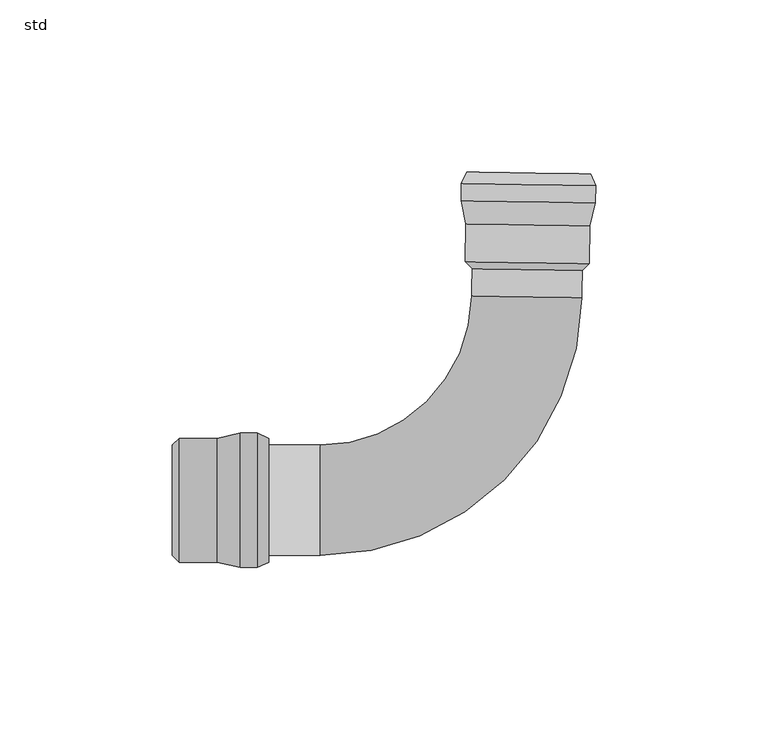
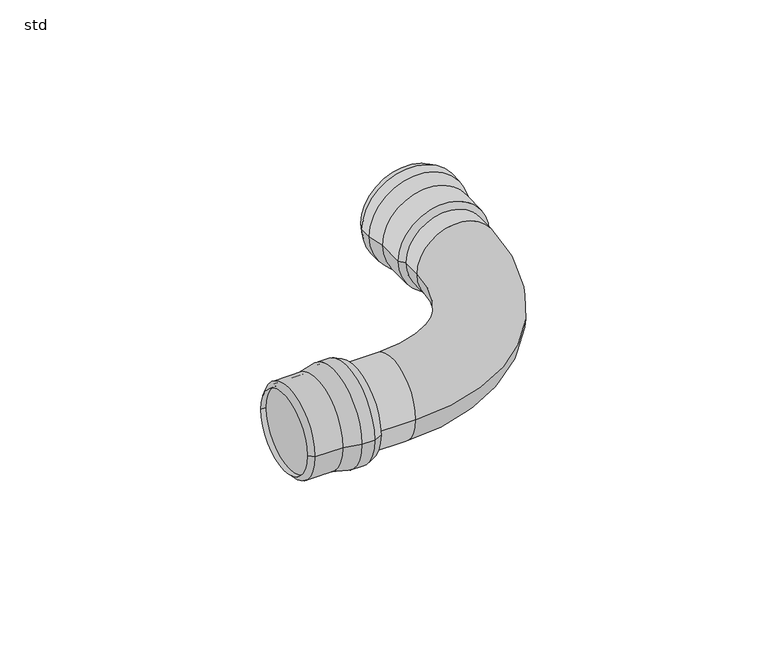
"""IFC4 building model written with IfcOpenShell, lengths in millimetres: pipe fitting geometry, PIF_ST_UN_GM-X pipe bend_ACO : std."""

from ifc_helpers import new_model, si_unit, point, frame, origin, place, context, project, spatial, polyline, circle_curve, ellipse_curve, trimmed, source, transform, mapped, element, save
from ifc_brep_helpers import plane_surface, cylinder_surface, revolved_surface, advanced_brep


def std_7f522812(model_context):
    return source(origin(), model_context, "Body", "AdvancedBrep", [
        advanced_brep(
        [(-82.3, -19.5, 0.0), (-82.3, 19.5, 0.0), (-77.4, 19.5, 0.0), (-77.4, -19.5, 0.0), (-89.0, -18.0, 0.0), (-89.0, 18.0, 0.0), (-74.0, 18.0, 0.0), (-74.0, -18.0, 0.0), (-100.0, -18.0, 0.0), (-100.0, 18.0, 0.0), (-102.0, -16.0, 0.0), (-102.0, 16.0, 0.0), (-100.0, -16.0, 0.0), (-100.0, 16.0, 0.0), (-88.8894283, -17.0, 0.0), (-88.8894283, 17.0, 0.0), (-100.0, 17.0, 0.0), (-100.0, -17.0, 0.0), (-82.1894283, -18.5, 0.0), (-82.1894283, 18.5, 0.0), (-77.6107872, -18.5, 0.0), (-77.6107872, 18.5, 0.0), (-74.4036402, -17.0850822, 0.0), (-74.4036402, 17.0850822, 0.0)],
        [
            (0, 1, circle_curve(frame((-82.3, 0.0, 0.0), z_axis=(1.0, 0.0, 0.0), x_axis=(0.0, 1.0, 0.0)), 19.5)),
            (1, 2),
            (2, 3, circle_curve(frame((-77.4, 0.0, 0.0), z_axis=(-1.0, 0.0, 0.0), x_axis=(0.0, 1.0, 0.0)), 19.5)),
            (3, 0),
            (1, 0, circle_curve(frame((-82.3, 0.0, 0.0), z_axis=(1.0, 0.0, 0.0), x_axis=(0.0, 1.0, 0.0)), 19.5)),
            (3, 2, circle_curve(frame((-77.4, 0.0, 0.0), z_axis=(-1.0, 0.0, 0.0), x_axis=(0.0, 1.0, 0.0)), 19.5)),
            (4, 5, circle_curve(frame((-89.0, 0.0, 0.0), z_axis=(1.0, 0.0, 0.0), x_axis=(0.0, 1.0, 0.0)), 18.0)),
            (5, 1),
            (0, 4),
            (5, 4, circle_curve(frame((-89.0, 0.0, 0.0), z_axis=(1.0, 0.0, 0.0), x_axis=(0.0, 1.0, 0.0)), 18.0)),
            (2, 6),
            (6, 7, circle_curve(frame((-74.0, 0.0, 0.0), z_axis=(-1.0, 0.0, 0.0), x_axis=(0.0, 1.0, 0.0)), 18.0)),
            (7, 3),
            (7, 6, circle_curve(frame((-74.0, 0.0, 0.0), z_axis=(-1.0, 0.0, 0.0), x_axis=(0.0, 1.0, 0.0)), 18.0)),
            (8, 9, circle_curve(frame((-100.0, 0.0, 0.0), z_axis=(1.0, 0.0, 0.0), x_axis=(0.0, 1.0, 0.0)), 18.0)),
            (9, 5),
            (4, 8),
            (9, 8, circle_curve(frame((-100.0, 0.0, 0.0), z_axis=(1.0, 0.0, 0.0), x_axis=(0.0, 1.0, 0.0)), 18.0)),
            (10, 11, circle_curve(frame((-102.0, 0.0, 0.0), z_axis=(1.0, 0.0, 0.0), x_axis=(0.0, 1.0, 0.0)), 16.0)),
            (11, 9),
            (8, 10),
            (11, 10, circle_curve(frame((-102.0, 0.0, 0.0), z_axis=(1.0, 0.0, 0.0), x_axis=(0.0, 1.0, 0.0)), 16.0)),
            (12, 13, circle_curve(frame((-100.0, 0.0, 0.0), z_axis=(1.0, 0.0, 0.0), x_axis=(0.0, 1.0, 0.0)), 16.0)),
            (13, 11),
            (10, 12),
            (13, 12, circle_curve(frame((-100.0, 0.0, 0.0), z_axis=(1.0, 0.0, 0.0), x_axis=(0.0, 1.0, 0.0)), 16.0)),
            (14, 15, circle_curve(frame((-88.8894283, 0.0, 0.0), z_axis=(1.0, 0.0, 0.0), x_axis=(0.0, 1.0, 0.0)), 17.0)),
            (15, 16),
            (16, 17, circle_curve(frame((-100.0, 0.0, 0.0), z_axis=(-1.0, 0.0, 0.0), x_axis=(0.0, 1.0, 0.0)), 17.0)),
            (17, 14),
            (15, 14, circle_curve(frame((-88.8894283, 0.0, 0.0), z_axis=(1.0, 0.0, 0.0), x_axis=(0.0, 1.0, 0.0)), 17.0)),
            (17, 16, circle_curve(frame((-100.0, 0.0, 0.0), z_axis=(-1.0, 0.0, 0.0), x_axis=(0.0, 1.0, 0.0)), 17.0)),
            (18, 19, circle_curve(frame((-82.1894283, 0.0, 0.0), z_axis=(1.0, 0.0, 0.0), x_axis=(0.0, 1.0, 0.0)), 18.5)),
            (19, 15),
            (14, 18),
            (19, 18, circle_curve(frame((-82.1894283, 0.0, 0.0), z_axis=(1.0, 0.0, 0.0), x_axis=(0.0, 1.0, 0.0)), 18.5)),
            (20, 21, circle_curve(frame((-77.6107872, 0.0, 0.0), z_axis=(1.0, 0.0, 0.0), x_axis=(0.0, 1.0, 0.0)), 18.5)),
            (21, 19),
            (18, 20),
            (21, 20, circle_curve(frame((-77.6107872, 0.0, 0.0), z_axis=(1.0, 0.0, 0.0), x_axis=(0.0, 1.0, 0.0)), 18.5)),
            (22, 23, circle_curve(frame((-74.4036402, 0.0, 0.0), z_axis=(1.0, 0.0, 0.0), x_axis=(0.0, 1.0, 0.0)), 17.0850822)),
            (23, 21),
            (20, 22),
            (23, 22, circle_curve(frame((-74.4036402, 0.0, 0.0), z_axis=(1.0, 0.0, 0.0), x_axis=(0.0, 1.0, 0.0)), 17.0850822)),
            (6, 23),
            (22, 7),
            (16, 13),
            (12, 17),
        ],
        [
            cylinder_surface(frame((-77.3555883, 0.0, 0.0), z_axis=(-1.0, 0.0, 0.0), x_axis=(0.0, 1.0, 0.0)), 19.5),
            revolved_surface(polyline([(-82.3, 19.5, 0.0), (-89.0, 18.0, 0.0)]), (-77.3555883, 0.0, 0.0), (-1.0, 0.0, 0.0)),
            revolved_surface(polyline([(-74.0, 18.0, 0.0), (-77.4, 19.5, 0.0)]), (-77.3555883, 0.0, 0.0), (-1.0, 0.0, 0.0)),
            cylinder_surface(frame((-77.3555883, 0.0, 0.0), z_axis=(-1.0, 0.0, 0.0), x_axis=(0.0, 1.0, 0.0)), 18.0),
            revolved_surface(polyline([(-100.0, 18.0, 0.0), (-102.0, 16.0, 0.0)]), (-77.3555883, 0.0, 0.0), (-1.0, 0.0, 0.0)),
            revolved_surface(polyline([(-102.0, 16.0, 0.0), (-100.0, 16.0, 0.0)]), (-77.3555883, 0.0, 0.0), (-1.0, 0.0, 0.0)),
            revolved_surface(polyline([(-100.0, 17.0, 0.0), (-88.8894283, 17.0, 0.0)]), (-77.3555883, 0.0, 0.0), (-1.0, 0.0, 0.0)),
            revolved_surface(polyline([(-88.8894283, 17.0, 0.0), (-82.1894283, 18.5, 0.0)]), (-77.3555883, 0.0, 0.0), (-1.0, 0.0, 0.0)),
            revolved_surface(polyline([(-82.1894283, 18.5, 0.0), (-77.6107872, 18.5, 0.0)]), (-77.3555883, 0.0, 0.0), (-1.0, 0.0, 0.0)),
            revolved_surface(polyline([(-77.6107872, 18.5, 0.0), (-74.4036402, 17.0850822, 0.0)]), (-77.3555883, 0.0, 0.0), (-1.0, 0.0, 0.0)),
            revolved_surface(polyline([(-74.4036402, 17.0850822, 0.0), (-74.0, 18.0, 0.0)]), (-77.3555883, 0.0, 0.0), (-1.0, 0.0, 0.0)),
            plane_surface(frame((-100.0, 0.0, 0.0), z_axis=(1.0, 0.0, 0.0), x_axis=(0.0, 1.0, 0.0))),
        ],
        [
            (0, [[1, 2, 3, 4]]),
            (0, [[5, -4, 6, -2]]),
            (1, [[7, 8, -1, 9]]),
            (1, [[10, -9, -5, -8]]),
            (2, [[-3, 11, 12, 13]]),
            (2, [[-6, -13, 14, -11]]),
            (3, [[15, 16, -7, 17]]),
            (3, [[18, -17, -10, -16]]),
            (4, [[19, 20, -15, 21]]),
            (4, [[22, -21, -18, -20]]),
            (5, [[23, 24, -19, 25]]),
            (5, [[26, -25, -22, -24]]),
            (6, [[27, 28, 29, 30]]),
            (6, [[31, -30, 32, -28]]),
            (7, [[33, 34, -27, 35]]),
            (7, [[36, -35, -31, -34]]),
            (8, [[37, 38, -33, 39]]),
            (8, [[40, -39, -36, -38]]),
            (9, [[41, 42, -37, 43]]),
            (9, [[44, -43, -40, -42]]),
            (10, [[-12, 45, -41, 46]]),
            (10, [[-14, -46, -44, -45]]),
            (11, [[-29, 47, -23, 48]]),
            (11, [[-32, -48, -26, -47]]),
        ],
    ),
        advanced_brep(
        [(20.7952827, 86.3984735, 0.0), (-18.20035, 86.9821088, 0.0), (-18.1270215, 91.8815601, 0.0), (20.8686112, 91.2979248, 0.0), (19.1951851, 79.7216713, 0.0), (-16.8007836, 80.2604116, 0.0), (-16.5763084, 95.2587319, 0.0), (19.4196602, 94.7199915, 0.0), (19.03057, 68.7229031, 0.0), (-16.9653987, 69.2616434, 0.0), (17.0008639, 66.7530571, 0.0), (-14.9955527, 67.2319374, 0.0), (17.0307939, 68.7528331, 0.0), (-14.9656226, 69.2317134, 0.0), (18.1969518, 79.8471956, 0.0), (-15.7992409, 80.3560059, 0.0), (-15.9655107, 69.2466784, 0.0), (18.0306819, 68.7378681, 0.0), (19.7970493, 86.5239978, 0.0), (-17.1988073, 87.0777032, 0.0), (19.8655688, 91.1021262, 0.0), (-17.1302879, 91.6558315, 0.0), (18.4988044, 94.3300883, 0.0), (-15.6675336, 94.8414451, 0.0)],
        [
            (0, 1, circle_curve(frame((1.2974663, 86.6902912, 0.0), z_axis=(0.014965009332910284, 0.9998880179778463, 0.0), x_axis=(-0.9998880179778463, 0.014965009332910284, 0.0)), 19.5)),
            (1, 2),
            (2, 3, circle_curve(frame((1.3707949, 91.5897424, 0.0), z_axis=(-0.014965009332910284, -0.9998880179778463, 0.0), x_axis=(-0.9998880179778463, 0.014965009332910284, 0.0)), 19.5)),
            (3, 0),
            (1, 0, circle_curve(frame((1.2974663, 86.6902912, 0.0), z_axis=(0.014965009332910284, 0.9998880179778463, 0.0), x_axis=(-0.9998880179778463, 0.014965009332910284, 0.0)), 19.5)),
            (3, 2, circle_curve(frame((1.3707949, 91.5897424, 0.0), z_axis=(-0.014965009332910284, -0.9998880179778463, 0.0), x_axis=(-0.9998880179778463, 0.014965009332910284, 0.0)), 19.5)),
            (4, 5, circle_curve(frame((1.1972007, 79.9910414, 0.0), z_axis=(0.014965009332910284, 0.9998880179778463, 0.0), x_axis=(-0.9998880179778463, 0.014965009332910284, 0.0)), 18.0)),
            (5, 1),
            (0, 4),
            (5, 4, circle_curve(frame((1.1972007, 79.9910414, 0.0), z_axis=(0.014965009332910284, 0.9998880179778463, 0.0), x_axis=(-0.9998880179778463, 0.014965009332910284, 0.0)), 18.0)),
            (2, 6),
            (6, 7, circle_curve(frame((1.4216759, 94.9893617, 0.0), z_axis=(-0.014965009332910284, -0.9998880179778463, 0.0), x_axis=(-0.9998880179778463, 0.014965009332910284, 0.0)), 18.0)),
            (7, 3),
            (7, 6, circle_curve(frame((1.4216759, 94.9893617, 0.0), z_axis=(-0.014965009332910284, -0.9998880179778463, 0.0), x_axis=(-0.9998880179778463, 0.014965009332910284, 0.0)), 18.0)),
            (8, 9, circle_curve(frame((1.0325856, 68.9922732, 0.0), z_axis=(0.014965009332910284, 0.9998880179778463, 0.0), x_axis=(-0.9998880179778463, 0.014965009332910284, 0.0)), 18.0)),
            (9, 5),
            (4, 8),
            (9, 8, circle_curve(frame((1.0325856, 68.9922732, 0.0), z_axis=(0.014965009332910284, 0.9998880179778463, 0.0), x_axis=(-0.9998880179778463, 0.014965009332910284, 0.0)), 18.0)),
            (10, 11, circle_curve(frame((1.0026556, 66.9924972, 0.0), z_axis=(0.014965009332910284, 0.9998880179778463, 0.0), x_axis=(-0.9998880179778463, 0.014965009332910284, 0.0)), 16.0)),
            (11, 9),
            (8, 10),
            (11, 10, circle_curve(frame((1.0026556, 66.9924972, 0.0), z_axis=(0.014965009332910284, 0.9998880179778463, 0.0), x_axis=(-0.9998880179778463, 0.014965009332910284, 0.0)), 16.0)),
            (12, 13, circle_curve(frame((1.0325856, 68.9922732, 0.0), z_axis=(0.014965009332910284, 0.9998880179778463, 0.0), x_axis=(-0.9998880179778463, 0.014965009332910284, 0.0)), 16.0)),
            (13, 11),
            (10, 12),
            (13, 12, circle_curve(frame((1.0325856, 68.9922732, 0.0), z_axis=(0.014965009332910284, 0.9998880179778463, 0.0), x_axis=(-0.9998880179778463, 0.014965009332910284, 0.0)), 16.0)),
            (14, 15, circle_curve(frame((1.1988555, 80.1016008, 0.0), z_axis=(0.014965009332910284, 0.9998880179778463, 0.0), x_axis=(-0.9998880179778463, 0.014965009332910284, 0.0)), 17.0)),
            (15, 16),
            (16, 17, circle_curve(frame((1.0325856, 68.9922732, 0.0), z_axis=(-0.014965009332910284, -0.9998880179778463, 0.0), x_axis=(-0.9998880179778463, 0.014965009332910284, 0.0)), 17.0)),
            (17, 14),
            (15, 14, circle_curve(frame((1.1988555, 80.1016008, 0.0), z_axis=(0.014965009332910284, 0.9998880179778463, 0.0), x_axis=(-0.9998880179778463, 0.014965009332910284, 0.0)), 17.0)),
            (17, 16, circle_curve(frame((1.0325856, 68.9922732, 0.0), z_axis=(-0.014965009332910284, -0.9998880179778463, 0.0), x_axis=(-0.9998880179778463, 0.014965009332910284, 0.0)), 17.0)),
            (18, 19, circle_curve(frame((1.299121, 86.8008505, 0.0), z_axis=(0.014965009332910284, 0.9998880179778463, 0.0), x_axis=(-0.9998880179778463, 0.014965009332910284, 0.0)), 18.5)),
            (19, 15),
            (14, 18),
            (19, 18, circle_curve(frame((1.299121, 86.8008505, 0.0), z_axis=(0.014965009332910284, 0.9998880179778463, 0.0), x_axis=(-0.9998880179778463, 0.014965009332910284, 0.0)), 18.5)),
            (20, 21, circle_curve(frame((1.3676404, 91.3789788, 0.0), z_axis=(0.014965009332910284, 0.9998880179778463, 0.0), x_axis=(-0.9998880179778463, 0.014965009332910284, 0.0)), 18.5)),
            (21, 19),
            (18, 20),
            (21, 20, circle_curve(frame((1.3676404, 91.3789788, 0.0), z_axis=(0.014965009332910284, 0.9998880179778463, 0.0), x_axis=(-0.9998880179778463, 0.014965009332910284, 0.0)), 18.5)),
            (22, 23, circle_curve(frame((1.4156354, 94.5857667, 0.0), z_axis=(0.014965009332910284, 0.9998880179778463, 0.0), x_axis=(-0.9998880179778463, 0.014965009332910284, 0.0)), 17.0850822)),
            (23, 21),
            (20, 22),
            (23, 22, circle_curve(frame((1.4156354, 94.5857667, 0.0), z_axis=(0.014965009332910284, 0.9998880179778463, 0.0), x_axis=(-0.9998880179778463, 0.014965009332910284, 0.0)), 17.0850822)),
            (6, 23),
            (22, 7),
            (16, 13),
            (12, 17),
        ],
        [
            cylinder_surface(frame((1.3714595, 91.6341492, 0.0), z_axis=(-0.014965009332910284, -0.9998880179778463, 0.0), x_axis=(-0.9998880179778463, 0.014965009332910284, 0.0)), 19.5),
            revolved_surface(polyline([(-18.20035, 86.9821088, 0.0), (-16.8007836, 80.2604116, 0.0)]), (1.3714595, 91.6341492, 0.0), (-0.014965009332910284, -0.9998880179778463, 0.0)),
            revolved_surface(polyline([(-16.5763084, 95.2587319, 0.0), (-18.1270215, 91.8815601, 0.0)]), (1.3714595, 91.6341492, 0.0), (-0.014965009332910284, -0.9998880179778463, 0.0)),
            cylinder_surface(frame((1.3714595, 91.6341492, 0.0), z_axis=(-0.014965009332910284, -0.9998880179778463, 0.0), x_axis=(-0.9998880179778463, 0.014965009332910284, 0.0)), 18.0),
            revolved_surface(polyline([(-16.9653987, 69.2616434, 0.0), (-14.9955527, 67.2319374, 0.0)]), (1.3714595, 91.6341492, 0.0), (-0.014965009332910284, -0.9998880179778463, 0.0)),
            revolved_surface(polyline([(-14.995552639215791, 67.23193734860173, 0.0), (-14.965622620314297, 69.23171340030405, 0.0)]), (1.3714595, 91.6341492, 0.0), (-0.014965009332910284, -0.9998880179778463, 0.0)),
            revolved_surface(polyline([(-15.965510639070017, 69.2466783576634, 0.0), (-15.799240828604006, 80.35600595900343, 0.0)]), (1.3714595, 91.6341492, 0.0), (-0.014965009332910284, -0.9998880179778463, 0.0)),
            revolved_surface(polyline([(-15.7992409, 80.3560059, 0.0), (-17.1988073, 87.0777032, 0.0)]), (1.3714595, 91.6341492, 0.0), (-0.014965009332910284, -0.9998880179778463, 0.0)),
            revolved_surface(polyline([(-17.198807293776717, 87.077703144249, 0.0), (-17.130287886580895, 91.65583154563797, 0.0)]), (1.3714595, 91.6341492, 0.0), (-0.014965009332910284, -0.9998880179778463, 0.0)),
            revolved_surface(polyline([(-17.1302879, 91.6558315, 0.0), (-15.6675336, 94.8414451, 0.0)]), (1.3714595, 91.6341492, 0.0), (-0.014965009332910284, -0.9998880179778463, 0.0)),
            revolved_surface(polyline([(-15.6675336, 94.8414451, 0.0), (-16.5763084, 95.2587319, 0.0)]), (1.3714595, 91.6341492, 0.0), (-0.014965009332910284, -0.9998880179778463, 0.0)),
            plane_surface(frame((1.0325856, 68.9922732, 0.0), z_axis=(0.014965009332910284, 0.9998880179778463, 0.0), x_axis=(-0.9998880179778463, 0.014965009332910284, 0.0))),
        ],
        [
            (0, [[1, 2, 3, 4]]),
            (0, [[5, -4, 6, -2]]),
            (1, [[7, 8, -1, 9]]),
            (1, [[10, -9, -5, -8]]),
            (2, [[-3, 11, 12, 13]]),
            (2, [[-6, -13, 14, -11]]),
            (3, [[15, 16, -7, 17]]),
            (3, [[18, -17, -10, -16]]),
            (4, [[19, 20, -15, 21]]),
            (4, [[22, -21, -18, -20]]),
            (5, [[23, 24, -19, 25]]),
            (5, [[26, -25, -22, -24]]),
            (6, [[27, 28, 29, 30]]),
            (6, [[31, -30, 32, -28]]),
            (7, [[33, 34, -27, 35]]),
            (7, [[36, -35, -31, -34]]),
            (8, [[37, 38, -33, 39]]),
            (8, [[40, -39, -36, -38]]),
            (9, [[41, 42, -37, 43]]),
            (9, [[44, -43, -40, -42]]),
            (10, [[-12, 45, -41, 46]]),
            (10, [[-14, -46, -44, -45]]),
            (11, [[-29, 47, -23, 48]]),
            (11, [[-32, -48, -26, -47]]),
        ],
    ),
        advanced_brep(
        [(-15.1152727, 59.2328332, 0.0), (-59.0, 16.0, 0.0), (-59.0, -16.0, 0.0), (16.8811438, 58.7539529, 0.0), (-100.0, -16.0, 0.0), (-100.0, 16.0, 0.0), (17.0307939, 68.7528331, 0.0), (-14.9656226, 69.2317134, 0.0)],
        [
            (0, 1, circle_curve(frame((-59.0, 59.8896421, 0.0), z_axis=(0.0, 0.0, -1.0), x_axis=(0.0, -1.0, 0.0)), 43.8896421)),
            (1, 2, circle_curve(frame((-59.0, 0.0, 0.0), z_axis=(1.0, 0.0, 0.0), x_axis=(0.0, 1.0, 0.0)), 16.0)),
            (2, 3, circle_curve(frame((-59.0, 59.8896421, 0.0), z_axis=(0.0, 0.0, 1.0), x_axis=(0.0, -1.0, 0.0)), 75.8896421)),
            (3, 0, circle_curve(frame((0.8829356, 58.9933931, 0.0), z_axis=(-0.01496500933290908, -0.9998880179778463, 0.0), x_axis=(-0.9998880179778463, 0.01496500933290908, 0.0)), 16.0)),
            (0, 3, circle_curve(frame((0.8829356, 58.9933931, 0.0), z_axis=(-0.01496500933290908, -0.9998880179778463, 0.0), x_axis=(-0.9998880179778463, 0.01496500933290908, 0.0)), 16.0)),
            (2, 1, circle_curve(frame((-59.0, 0.0, 0.0), z_axis=(1.0, 0.0, 0.0), x_axis=(0.0, 1.0, 0.0)), 16.0)),
            (4, 5, circle_curve(frame((-100.0, 0.0, 0.0), z_axis=(-1.0, 0.0, 0.0), x_axis=(0.0, 1.0, 0.0)), 16.0)),
            (5, 4, circle_curve(frame((-100.0, 0.0, 0.0), z_axis=(-1.0, 0.0, 0.0), x_axis=(0.0, 1.0, 0.0)), 16.0)),
            (5, 1),
            (2, 4),
            (6, 7, circle_curve(frame((1.0325856, 68.9922732, 0.0), z_axis=(0.01496500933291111, 0.9998880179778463, 0.0), x_axis=(-0.9998880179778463, 0.01496500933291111, 0.0)), 16.0)),
            (7, 6, circle_curve(frame((1.0325856, 68.9922732, 0.0), z_axis=(0.01496500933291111, 0.9998880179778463, 0.0), x_axis=(-0.9998880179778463, 0.01496500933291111, 0.0)), 16.0)),
            (7, 0),
            (3, 6),
        ],
        [
            revolved_surface(trimmed(ellipse_curve(frame((-59.0, 0.0, 0.0), z_axis=(-1.0, 0.0, 0.0), x_axis=(0.0, 1.0, 0.0)), 16.0, 16.0), [point((-59.0, -16.0, 0.0))], [point((-59.0, 16.0, 0.0))], True, "CARTESIAN"), (-59.0, 59.8896421, 0.0), (0.0, 0.0, 1.0)),
            revolved_surface(trimmed(ellipse_curve(frame((-59.0, 0.0, 0.0), z_axis=(-1.0, 0.0, 0.0), x_axis=(0.0, 1.0, 0.0)), 16.0, 16.0), [point((-59.0, 16.0, 0.0))], [point((-59.0, -16.0, 0.0))], True, "CARTESIAN"), (-59.0, 59.8896421, 0.0), (0.0, 0.0, 1.0)),
            plane_surface(frame((-100.0, 16.0, 0.0), z_axis=(-1.0, 0.0, 0.0), x_axis=(0.0, 0.0, -1.0))),
            cylinder_surface(frame((-100.0, 0.0, 0.0), z_axis=(1.0, 0.0, 0.0), x_axis=(0.0, 1.0, 0.0)), 16.0),
            plane_surface(frame((1.0325856, 68.9922732, 0.0), z_axis=(0.014965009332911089, 0.9998880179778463, 0.0), x_axis=(0.0, 0.0, 1.0))),
            cylinder_surface(frame((0.8829356, 58.9933931, 0.0), z_axis=(-0.01496500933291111, -0.9998880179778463, 0.0), x_axis=(-0.9998880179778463, 0.01496500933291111, 0.0)), 16.0),
        ],
        [
            (0, [[1, 2, 3, 4]]),
            (1, [[-1, 5, -3, 6]]),
            (2, [[7, 8]]),
            (3, [[-8, 9, -6, 10]]),
            (3, [[-7, -10, -2, -9]]),
            (4, [[11, 12]]),
            (5, [[-12, 13, -4, 14]]),
            (5, [[-11, -14, -5, -13]]),
        ],
    ),
    ])


if __name__ == "__main__":
    model = new_model("IFC4")
    model_context = context("Model", 3, world=origin())
    ifc_project = project(units=[si_unit("LENGTHUNIT", "METRE", prefix="MILLI")], contexts=[model_context])
    site = spatial("IfcSite", under=ifc_project)
    building = spatial("IfcBuilding", under=site)
    placement = place(None, origin())
    std_shape = std_7f522812(model_context)
    element("IfcPipeFitting", 1, ObjectType="PIF_ST_UN_GM-X pipe bend_ACO : std", at=placement, inside=building, context=model_context, shape_type="MappedRepresentation", body=[
        mapped(std_shape, transform((0.0, 0.0, 0.0), x_axis=(1.0, 0.0, 0.0), y_axis=(0.0, 1.0, 0.0), z_axis=(0.0, 0.0, 1.0))),
    ])
    save(model, "model.ifc")
